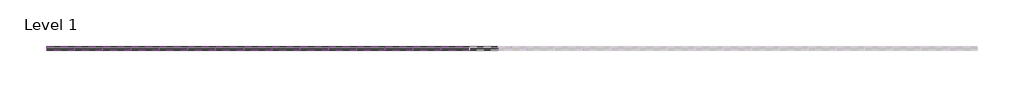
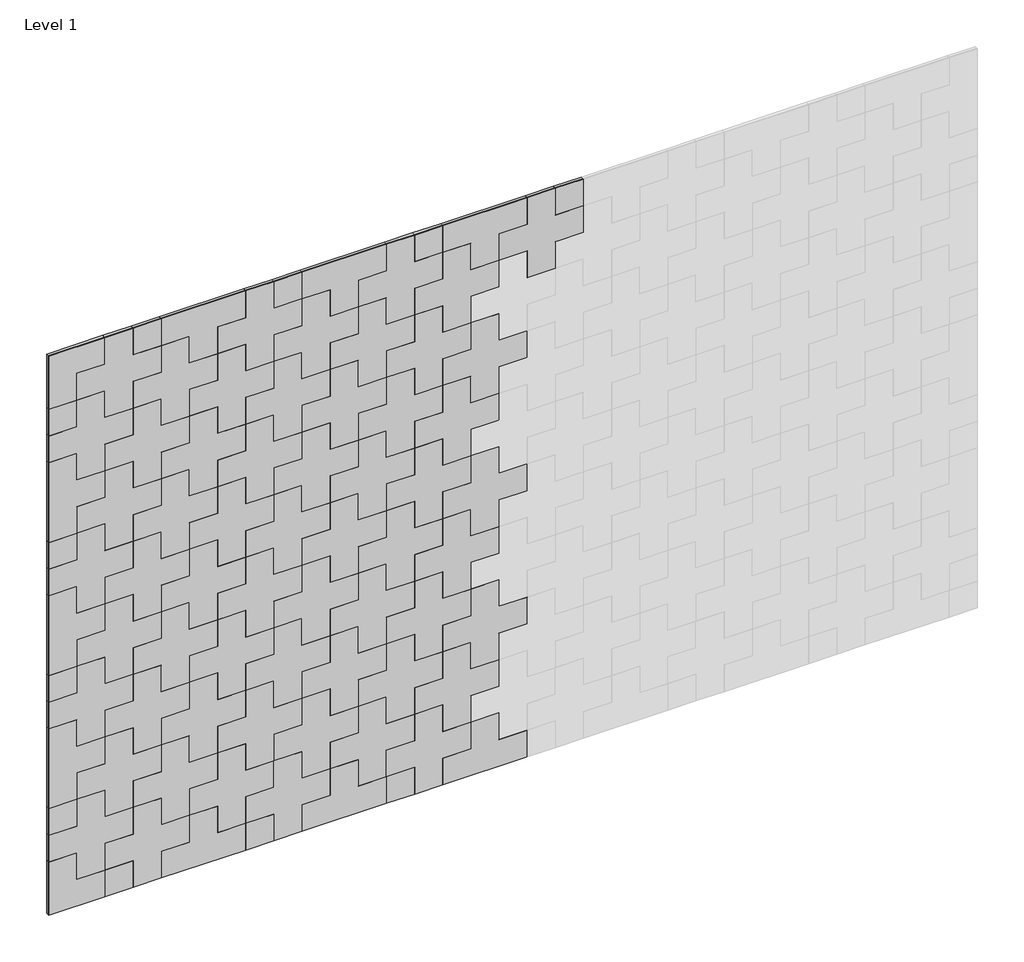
# One storey, part 1 of 2: 80 proxies.
"""IFC4 building model written with IfcOpenShell, lengths in millimetres."""

from ifc_helpers import new_model, si_unit, origin, place, context, project, spatial, transform, mapped, element, save
from components import plus_block_6a39ef65, plus_block_097eb3e5, plus_block_886bbecf, plus_block_dd2fe4e4, plus_block_975a3b46, plus_block_4f07b3c1

model = new_model("IFC4")

# Units and contexts
model_context = context("Model", 3, world=origin())
ifc_project = project(units=[si_unit("LENGTHUNIT", "METRE", prefix="MILLI")], contexts=[model_context])

# Site, building, storey
site = spatial("IfcSite", under=ifc_project)
building = spatial("IfcBuilding", under=site)
storey = spatial("IfcBuildingStorey", under=building, Name="Level 1", Elevation=0.0)

# Proxies
placement = place(None, origin())
plus_block_shape = plus_block_6a39ef65(model_context)
element("IfcBuildingElementProxy", 1, Name="FilzFelt_Plus_Block : Plus Block", ObjectType="FilzFelt_Plus_Block : Plus Block", at=placement, inside=storey, context=model_context, shape_type="MappedRepresentation", body=[
    mapped(plus_block_shape, transform((19537.0189919, -17477.9339335, 1582.5), x_axis=(1.0, 0.0, 0.0), y_axis=(0.0, 0.0, 1.0), z_axis=(0.0, -1.0, 0.0))),
])
element("IfcBuildingElementProxy", 2, Name="FilzFelt_Plus_Block : Plus Block", ObjectType="FilzFelt_Plus_Block : Plus Block", at=placement, inside=storey, context=model_context, shape_type="MappedRepresentation", body=[
    mapped(plus_block_shape, transform((20045.3523252, -17477.9339335, 1582.5), x_axis=(1.0, 0.0, 0.0), y_axis=(0.0, 0.0, 1.0), z_axis=(0.0, -1.0, 0.0))),
])
element("IfcBuildingElementProxy", 3, Name="FilzFelt_Plus_Block : Plus Block", ObjectType="FilzFelt_Plus_Block : Plus Block", at=placement, inside=storey, context=model_context, shape_type="MappedRepresentation", body=[
    mapped(plus_block_shape, transform((20553.6856586, -17477.9339335, 1582.5), x_axis=(1.0, 0.0, 0.0), y_axis=(0.0, 0.0, 1.0), z_axis=(0.0, -1.0, 0.0))),
])
element("IfcBuildingElementProxy", 4, Name="FilzFelt_Plus_Block : Plus Block", ObjectType="FilzFelt_Plus_Block : Plus Block", at=placement, inside=storey, context=model_context, shape_type="MappedRepresentation", body=[
    mapped(plus_block_shape, transform((19740.3523252, -17477.9339335, -44.1666667), x_axis=(1.0, 0.0, 0.0), y_axis=(0.0, 0.0, 1.0), z_axis=(0.0, -1.0, 0.0))),
])
element("IfcBuildingElementProxy", 5, Name="FilzFelt_Plus_Block : Plus Block", ObjectType="FilzFelt_Plus_Block : Plus Block", at=placement, inside=storey, context=model_context, shape_type="MappedRepresentation", body=[
    mapped(plus_block_shape, transform((20248.6856586, -17477.9339335, -44.1666667), x_axis=(1.0, 0.0, 0.0), y_axis=(0.0, 0.0, 1.0), z_axis=(0.0, -1.0, 0.0))),
])
element("IfcBuildingElementProxy", 6, Name="FilzFelt_Plus_Block : Plus Block", ObjectType="FilzFelt_Plus_Block : Plus Block", at=placement, inside=storey, context=model_context, shape_type="MappedRepresentation", body=[
    mapped(plus_block_shape, transform((20757.0189919, -17477.9339335, -44.1666667), x_axis=(1.0, 0.0, 0.0), y_axis=(0.0, 0.0, 1.0), z_axis=(0.0, -1.0, 0.0))),
])
element("IfcBuildingElementProxy", 7, Name="FilzFelt_Plus_Block : Plus Block", ObjectType="FilzFelt_Plus_Block : Plus Block", at=placement, inside=storey, context=model_context, shape_type="MappedRepresentation", body=[
    mapped(plus_block_shape, transform((19842.0189919, -17477.9339335, 1175.8333333), x_axis=(1.0, 0.0, 0.0), y_axis=(0.0, 0.0, 1.0), z_axis=(0.0, -1.0, 0.0))),
])
element("IfcBuildingElementProxy", 8, Name="FilzFelt_Plus_Block : Plus Block", ObjectType="FilzFelt_Plus_Block : Plus Block", at=placement, inside=storey, context=model_context, shape_type="MappedRepresentation", body=[
    mapped(plus_block_shape, transform((20350.3523252, -17477.9339335, 1175.8333333), x_axis=(1.0, 0.0, 0.0), y_axis=(0.0, 0.0, 1.0), z_axis=(0.0, -1.0, 0.0))),
])
element("IfcBuildingElementProxy", 9, Name="FilzFelt_Plus_Block : Plus Block", ObjectType="FilzFelt_Plus_Block : Plus Block", at=placement, inside=storey, context=model_context, shape_type="MappedRepresentation", body=[
    mapped(plus_block_shape, transform((20858.6856586, -17477.9339335, 1175.8333333), x_axis=(1.0, 0.0, 0.0), y_axis=(0.0, 0.0, 1.0), z_axis=(0.0, -1.0, 0.0))),
])
element("IfcBuildingElementProxy", 10, Name="FilzFelt_Plus_Block : Plus Block", ObjectType="FilzFelt_Plus_Block : Plus Block", at=placement, inside=storey, context=model_context, shape_type="MappedRepresentation", body=[
    mapped(plus_block_shape, transform((19638.6856586, -17477.9339335, 769.1666667), x_axis=(1.0, 0.0, 0.0), y_axis=(0.0, 0.0, 1.0), z_axis=(0.0, -1.0, 0.0))),
])
element("IfcBuildingElementProxy", 11, Name="FilzFelt_Plus_Block : Plus Block", ObjectType="FilzFelt_Plus_Block : Plus Block", at=placement, inside=storey, context=model_context, shape_type="MappedRepresentation", body=[
    mapped(plus_block_shape, transform((20147.0189919, -17477.9339335, 769.1666667), x_axis=(1.0, 0.0, 0.0), y_axis=(0.0, 0.0, 1.0), z_axis=(0.0, -1.0, 0.0))),
])
element("IfcBuildingElementProxy", 12, Name="FilzFelt_Plus_Block : Plus Block", ObjectType="FilzFelt_Plus_Block : Plus Block", at=placement, inside=storey, context=model_context, shape_type="MappedRepresentation", body=[
    mapped(plus_block_shape, transform((20655.3523252, -17477.9339335, 769.1666667), x_axis=(1.0, 0.0, 0.0), y_axis=(0.0, 0.0, 1.0), z_axis=(0.0, -1.0, 0.0))),
])
element("IfcBuildingElementProxy", 13, Name="FilzFelt_Plus_Block : Plus Block", ObjectType="FilzFelt_Plus_Block : Plus Block", at=placement, inside=storey, context=model_context, shape_type="MappedRepresentation", body=[
    mapped(plus_block_shape, transform((19943.6856586, -17477.9339335, 362.5), x_axis=(1.0, 0.0, 0.0), y_axis=(0.0, 0.0, 1.0), z_axis=(0.0, -1.0, 0.0))),
])
element("IfcBuildingElementProxy", 14, Name="FilzFelt_Plus_Block : Plus Block", ObjectType="FilzFelt_Plus_Block : Plus Block", at=placement, inside=storey, context=model_context, shape_type="MappedRepresentation", body=[
    mapped(plus_block_shape, transform((20452.0189919, -17477.9339335, 362.5), x_axis=(1.0, 0.0, 0.0), y_axis=(0.0, 0.0, 1.0), z_axis=(0.0, -1.0, 0.0))),
])
element("IfcBuildingElementProxy", 15, Name="FilzFelt_Plus_Block : Plus Block", ObjectType="FilzFelt_Plus_Block : Plus Block", at=placement, inside=storey, context=model_context, shape_type="MappedRepresentation", body=[
    mapped(plus_block_shape, transform((20960.3523252, -17477.9339335, 362.5), x_axis=(1.0, 0.0, 0.0), y_axis=(0.0, 0.0, 1.0), z_axis=(0.0, -1.0, 0.0))),
])
plus_block_2_shape = plus_block_097eb3e5(model_context)
element("IfcBuildingElementProxy", 16, Name="FilzFelt_Plus_Block : Plus Block", ObjectType="FilzFelt_Plus_Block : Plus Block", at=placement, inside=storey, context=model_context, shape_type="MappedRepresentation", body=[
    mapped(plus_block_2_shape, transform((19740.3523252, -17477.9339335, 1989.1666667), x_axis=(1.0, 0.0, 0.0), y_axis=(0.0, 0.0, 1.0), z_axis=(0.0, -1.0, 0.0))),
])
element("IfcBuildingElementProxy", 17, Name="FilzFelt_Plus_Block : Plus Block", ObjectType="FilzFelt_Plus_Block : Plus Block", at=placement, inside=storey, context=model_context, shape_type="MappedRepresentation", body=[
    mapped(plus_block_2_shape, transform((20248.6856586, -17477.9339335, 1989.1666667), x_axis=(1.0, 0.0, 0.0), y_axis=(0.0, 0.0, 1.0), z_axis=(0.0, -1.0, 0.0))),
])
element("IfcBuildingElementProxy", 18, Name="FilzFelt_Plus_Block : Plus Block", ObjectType="FilzFelt_Plus_Block : Plus Block", at=placement, inside=storey, context=model_context, shape_type="MappedRepresentation", body=[
    mapped(plus_block_2_shape, transform((20757.0189919, -17477.9339335, 1989.1666667), x_axis=(1.0, 0.0, 0.0), y_axis=(0.0, 0.0, 1.0), z_axis=(0.0, -1.0, 0.0))),
])
element("IfcBuildingElementProxy", 19, Name="FilzFelt_Plus_Block : Plus Block", ObjectType="FilzFelt_Plus_Block : Plus Block", at=placement, inside=storey, context=model_context, shape_type="MappedRepresentation", body=[
    mapped(plus_block_2_shape, transform((21265.3523252, -17477.9339335, 1989.1666667), x_axis=(1.0, 0.0, 0.0), y_axis=(0.0, 0.0, 1.0), z_axis=(0.0, -1.0, 0.0))),
])
element("IfcBuildingElementProxy", 20, Name="FilzFelt_Plus_Block : Plus Block", ObjectType="FilzFelt_Plus_Block : Plus Block", at=placement, inside=storey, context=model_context, shape_type="MappedRepresentation", body=[
    mapped(plus_block_2_shape, transform((19435.3523252, -17477.9339335, 1277.5), x_axis=(1.0, 0.0, 0.0), y_axis=(0.0, 0.0, 1.0), z_axis=(0.0, -1.0, 0.0))),
])
plus_block_3_shape = plus_block_886bbecf(model_context)
element("IfcBuildingElementProxy", 21, Name="FilzFelt_Plus_Block : Plus Block", ObjectType="FilzFelt_Plus_Block : Plus Block", at=placement, inside=storey, context=model_context, shape_type="MappedRepresentation", body=[
    mapped(plus_block_3_shape, transform((19435.3523252, -17477.9339335, 362.5), x_axis=(1.0, 0.0, 0.0), y_axis=(0.0, 0.0, 1.0), z_axis=(0.0, -1.0, 0.0))),
])
plus_block_4_shape = plus_block_dd2fe4e4(model_context)
element("IfcBuildingElementProxy", 22, Name="FilzFelt_Plus_Block : Plus Block", ObjectType="FilzFelt_Plus_Block : Plus Block", at=placement, inside=storey, context=model_context, shape_type="MappedRepresentation", body=[
    mapped(plus_block_4_shape, transform((19435.3523252, -17477.9339335, 1887.5), x_axis=(1.0, 0.0, 0.0), y_axis=(0.0, 0.0, 1.0), z_axis=(0.0, -1.0, 0.0))),
])
plus_block_5_shape = plus_block_975a3b46(model_context)
element("IfcBuildingElementProxy", 23, Name="FilzFelt_Plus_Block : Plus Block", ObjectType="FilzFelt_Plus_Block : Plus Block", at=placement, inside=storey, context=model_context, shape_type="MappedRepresentation", body=[
    mapped(plus_block_5_shape, transform((19943.6856586, -17477.9339335, 1887.5), x_axis=(1.0, 0.0, 0.0), y_axis=(0.0, 0.0, 1.0), z_axis=(0.0, -1.0, 0.0))),
])
element("IfcBuildingElementProxy", 24, Name="FilzFelt_Plus_Block : Plus Block", ObjectType="FilzFelt_Plus_Block : Plus Block", at=placement, inside=storey, context=model_context, shape_type="MappedRepresentation", body=[
    mapped(plus_block_5_shape, transform((20452.0189919, -17477.9339335, 1887.5), x_axis=(1.0, 0.0, 0.0), y_axis=(0.0, 0.0, 1.0), z_axis=(0.0, -1.0, 0.0))),
])
element("IfcBuildingElementProxy", 25, Name="FilzFelt_Plus_Block : Plus Block", ObjectType="FilzFelt_Plus_Block : Plus Block", at=placement, inside=storey, context=model_context, shape_type="MappedRepresentation", body=[
    mapped(plus_block_5_shape, transform((20960.3523252, -17477.9339335, 1887.5), x_axis=(1.0, 0.0, 0.0), y_axis=(0.0, 0.0, 1.0), z_axis=(0.0, -1.0, 0.0))),
])
element("IfcBuildingElementProxy", 26, Name="FilzFelt_Plus_Block : Plus Block", ObjectType="FilzFelt_Plus_Block : Plus Block", at=placement, inside=storey, context=model_context, shape_type="MappedRepresentation", body=[
    mapped(plus_block_shape, transform((19537.0189919, -17477.9339335, 1074.1666667), x_axis=(1.0, 0.0, 0.0), y_axis=(0.0, 0.0, 1.0), z_axis=(0.0, -1.0, 0.0))),
])
element("IfcBuildingElementProxy", 27, Name="FilzFelt_Plus_Block : Plus Block", ObjectType="FilzFelt_Plus_Block : Plus Block", at=placement, inside=storey, context=model_context, shape_type="MappedRepresentation", body=[
    mapped(plus_block_shape, transform((19740.3523252, -17477.9339335, 1480.8333333), x_axis=(1.0, 0.0, 0.0), y_axis=(0.0, 0.0, 1.0), z_axis=(0.0, -1.0, 0.0))),
])
element("IfcBuildingElementProxy", 28, Name="FilzFelt_Plus_Block : Plus Block", ObjectType="FilzFelt_Plus_Block : Plus Block", at=placement, inside=storey, context=model_context, shape_type="MappedRepresentation", body=[
    mapped(plus_block_shape, transform((20248.6856586, -17477.9339335, 1480.8333333), x_axis=(1.0, 0.0, 0.0), y_axis=(0.0, 0.0, 1.0), z_axis=(0.0, -1.0, 0.0))),
])
element("IfcBuildingElementProxy", 29, Name="FilzFelt_Plus_Block : Plus Block", ObjectType="FilzFelt_Plus_Block : Plus Block", at=placement, inside=storey, context=model_context, shape_type="MappedRepresentation", body=[
    mapped(plus_block_shape, transform((20757.0189919, -17477.9339335, 1480.8333333), x_axis=(1.0, 0.0, 0.0), y_axis=(0.0, 0.0, 1.0), z_axis=(0.0, -1.0, 0.0))),
])
element("IfcBuildingElementProxy", 30, Name="FilzFelt_Plus_Block : Plus Block", ObjectType="FilzFelt_Plus_Block : Plus Block", at=placement, inside=storey, context=model_context, shape_type="MappedRepresentation", body=[
    mapped(plus_block_shape, transform((20045.3523252, -17477.9339335, 1074.1666667), x_axis=(1.0, 0.0, 0.0), y_axis=(0.0, 0.0, 1.0), z_axis=(0.0, -1.0, 0.0))),
])
element("IfcBuildingElementProxy", 31, Name="FilzFelt_Plus_Block : Plus Block", ObjectType="FilzFelt_Plus_Block : Plus Block", at=placement, inside=storey, context=model_context, shape_type="MappedRepresentation", body=[
    mapped(plus_block_shape, transform((20553.6856586, -17477.9339335, 1074.1666667), x_axis=(1.0, 0.0, 0.0), y_axis=(0.0, 0.0, 1.0), z_axis=(0.0, -1.0, 0.0))),
])
element("IfcBuildingElementProxy", 32, Name="FilzFelt_Plus_Block : Plus Block", ObjectType="FilzFelt_Plus_Block : Plus Block", at=placement, inside=storey, context=model_context, shape_type="MappedRepresentation", body=[
    mapped(plus_block_shape, transform((19842.0189919, -17477.9339335, 667.5), x_axis=(1.0, 0.0, 0.0), y_axis=(0.0, 0.0, 1.0), z_axis=(0.0, -1.0, 0.0))),
])
element("IfcBuildingElementProxy", 33, Name="FilzFelt_Plus_Block : Plus Block", ObjectType="FilzFelt_Plus_Block : Plus Block", at=placement, inside=storey, context=model_context, shape_type="MappedRepresentation", body=[
    mapped(plus_block_shape, transform((20350.3523252, -17477.9339335, 667.5), x_axis=(1.0, 0.0, 0.0), y_axis=(0.0, 0.0, 1.0), z_axis=(0.0, -1.0, 0.0))),
])
element("IfcBuildingElementProxy", 34, Name="FilzFelt_Plus_Block : Plus Block", ObjectType="FilzFelt_Plus_Block : Plus Block", at=placement, inside=storey, context=model_context, shape_type="MappedRepresentation", body=[
    mapped(plus_block_shape, transform((20858.6856586, -17477.9339335, 667.5), x_axis=(1.0, 0.0, 0.0), y_axis=(0.0, 0.0, 1.0), z_axis=(0.0, -1.0, 0.0))),
])
element("IfcBuildingElementProxy", 35, Name="FilzFelt_Plus_Block : Plus Block", ObjectType="FilzFelt_Plus_Block : Plus Block", at=placement, inside=storey, context=model_context, shape_type="MappedRepresentation", body=[
    mapped(plus_block_shape, transform((19638.6856586, -17477.9339335, 260.8333333), x_axis=(1.0, 0.0, 0.0), y_axis=(0.0, 0.0, 1.0), z_axis=(0.0, -1.0, 0.0))),
])
element("IfcBuildingElementProxy", 36, Name="FilzFelt_Plus_Block : Plus Block", ObjectType="FilzFelt_Plus_Block : Plus Block", at=placement, inside=storey, context=model_context, shape_type="MappedRepresentation", body=[
    mapped(plus_block_shape, transform((20147.0189919, -17477.9339335, 260.8333333), x_axis=(1.0, 0.0, 0.0), y_axis=(0.0, 0.0, 1.0), z_axis=(0.0, -1.0, 0.0))),
])
element("IfcBuildingElementProxy", 37, Name="FilzFelt_Plus_Block : Plus Block", ObjectType="FilzFelt_Plus_Block : Plus Block", at=placement, inside=storey, context=model_context, shape_type="MappedRepresentation", body=[
    mapped(plus_block_shape, transform((20655.3523252, -17477.9339335, 260.8333333), x_axis=(1.0, 0.0, 0.0), y_axis=(0.0, 0.0, 1.0), z_axis=(0.0, -1.0, 0.0))),
])
plus_block_6_shape = plus_block_4f07b3c1(model_context)
element("IfcBuildingElementProxy", 38, Name="FilzFelt_Plus_Block : Plus Block", ObjectType="FilzFelt_Plus_Block : Plus Block", at=placement, inside=storey, context=model_context, shape_type="MappedRepresentation", body=[
    mapped(plus_block_6_shape, transform((19435.3523252, -17477.9339335, -145.8333333), x_axis=(1.0, 0.0, 0.0), y_axis=(0.0, 0.0, 1.0), z_axis=(0.0, -1.0, 0.0))),
])
element("IfcBuildingElementProxy", 39, Name="FilzFelt_Plus_Block : Plus Block", ObjectType="FilzFelt_Plus_Block : Plus Block", at=placement, inside=storey, context=model_context, shape_type="MappedRepresentation", body=[
    mapped(plus_block_2_shape, transform((19435.3523252, -17477.9339335, 769.1666667), x_axis=(1.0, 0.0, 0.0), y_axis=(0.0, 0.0, 1.0), z_axis=(0.0, -1.0, 0.0))),
])
element("IfcBuildingElementProxy", 40, Name="FilzFelt_Plus_Block : Plus Block", ObjectType="FilzFelt_Plus_Block : Plus Block", at=placement, inside=storey, context=model_context, shape_type="MappedRepresentation", body=[
    mapped(plus_block_3_shape, transform((19943.6856586, -17477.9339335, -145.8333333), x_axis=(0.0, 0.0, 1.0), y_axis=(-1.0, 0.0, 0.0), z_axis=(0.0, -1.0, 0.0))),
])
element("IfcBuildingElementProxy", 41, Name="FilzFelt_Plus_Block : Plus Block", ObjectType="FilzFelt_Plus_Block : Plus Block", at=placement, inside=storey, context=model_context, shape_type="MappedRepresentation", body=[
    mapped(plus_block_3_shape, transform((20452.0189919, -17477.9339335, -145.8333333), x_axis=(0.0, 0.0, 1.0), y_axis=(-1.0, 0.0, 0.0), z_axis=(0.0, -1.0, 0.0))),
])
element("IfcBuildingElementProxy", 42, Name="FilzFelt_Plus_Block : Plus Block", ObjectType="FilzFelt_Plus_Block : Plus Block", at=placement, inside=storey, context=model_context, shape_type="MappedRepresentation", body=[
    mapped(plus_block_3_shape, transform((20960.3523252, -17477.9339335, -145.8333333), x_axis=(0.0, 0.0, 1.0), y_axis=(-1.0, 0.0, 0.0), z_axis=(0.0, -1.0, 0.0))),
])
element("IfcBuildingElementProxy", 43, Name="FilzFelt_Plus_Block : Plus Block", ObjectType="FilzFelt_Plus_Block : Plus Block", at=placement, inside=storey, context=model_context, shape_type="MappedRepresentation", body=[
    mapped(plus_block_shape, transform((19638.6856586, -17477.9339335, 1785.8333333), x_axis=(1.0, 0.0, 0.0), y_axis=(0.0, 0.0, 1.0), z_axis=(0.0, -1.0, 0.0))),
])
element("IfcBuildingElementProxy", 44, Name="FilzFelt_Plus_Block : Plus Block", ObjectType="FilzFelt_Plus_Block : Plus Block", at=placement, inside=storey, context=model_context, shape_type="MappedRepresentation", body=[
    mapped(plus_block_shape, transform((20147.0189919, -17477.9339335, 1785.8333333), x_axis=(1.0, 0.0, 0.0), y_axis=(0.0, 0.0, 1.0), z_axis=(0.0, -1.0, 0.0))),
])
element("IfcBuildingElementProxy", 45, Name="FilzFelt_Plus_Block : Plus Block", ObjectType="FilzFelt_Plus_Block : Plus Block", at=placement, inside=storey, context=model_context, shape_type="MappedRepresentation", body=[
    mapped(plus_block_shape, transform((20655.3523252, -17477.9339335, 1785.8333333), x_axis=(1.0, 0.0, 0.0), y_axis=(0.0, 0.0, 1.0), z_axis=(0.0, -1.0, 0.0))),
])
element("IfcBuildingElementProxy", 46, Name="FilzFelt_Plus_Block : Plus Block", ObjectType="FilzFelt_Plus_Block : Plus Block", at=placement, inside=storey, context=model_context, shape_type="MappedRepresentation", body=[
    mapped(plus_block_shape, transform((21163.6856586, -17477.9339335, 1785.8333333), x_axis=(1.0, 0.0, 0.0), y_axis=(0.0, 0.0, 1.0), z_axis=(0.0, -1.0, 0.0))),
])
element("IfcBuildingElementProxy", 47, Name="FilzFelt_Plus_Block : Plus Block", ObjectType="FilzFelt_Plus_Block : Plus Block", at=placement, inside=storey, context=model_context, shape_type="MappedRepresentation", body=[
    mapped(plus_block_shape, transform((19537.0189919, -17477.9339335, 565.8333333), x_axis=(1.0, 0.0, 0.0), y_axis=(0.0, 0.0, 1.0), z_axis=(0.0, -1.0, 0.0))),
])
element("IfcBuildingElementProxy", 48, Name="FilzFelt_Plus_Block : Plus Block", ObjectType="FilzFelt_Plus_Block : Plus Block", at=placement, inside=storey, context=model_context, shape_type="MappedRepresentation", body=[
    mapped(plus_block_shape, transform((19943.6856586, -17477.9339335, 1379.1666667), x_axis=(1.0, 0.0, 0.0), y_axis=(0.0, 0.0, 1.0), z_axis=(0.0, -1.0, 0.0))),
])
element("IfcBuildingElementProxy", 49, Name="FilzFelt_Plus_Block : Plus Block", ObjectType="FilzFelt_Plus_Block : Plus Block", at=placement, inside=storey, context=model_context, shape_type="MappedRepresentation", body=[
    mapped(plus_block_shape, transform((20452.0189919, -17477.9339335, 1379.1666667), x_axis=(1.0, 0.0, 0.0), y_axis=(0.0, 0.0, 1.0), z_axis=(0.0, -1.0, 0.0))),
])
element("IfcBuildingElementProxy", 50, Name="FilzFelt_Plus_Block : Plus Block", ObjectType="FilzFelt_Plus_Block : Plus Block", at=placement, inside=storey, context=model_context, shape_type="MappedRepresentation", body=[
    mapped(plus_block_shape, transform((20960.3523252, -17477.9339335, 1379.1666667), x_axis=(1.0, 0.0, 0.0), y_axis=(0.0, 0.0, 1.0), z_axis=(0.0, -1.0, 0.0))),
])
element("IfcBuildingElementProxy", 51, Name="FilzFelt_Plus_Block : Plus Block", ObjectType="FilzFelt_Plus_Block : Plus Block", at=placement, inside=storey, context=model_context, shape_type="MappedRepresentation", body=[
    mapped(plus_block_shape, transform((19740.3523252, -17477.9339335, 972.5), x_axis=(1.0, 0.0, 0.0), y_axis=(0.0, 0.0, 1.0), z_axis=(0.0, -1.0, 0.0))),
])
element("IfcBuildingElementProxy", 52, Name="FilzFelt_Plus_Block : Plus Block", ObjectType="FilzFelt_Plus_Block : Plus Block", at=placement, inside=storey, context=model_context, shape_type="MappedRepresentation", body=[
    mapped(plus_block_shape, transform((20248.6856586, -17477.9339335, 972.5), x_axis=(1.0, 0.0, 0.0), y_axis=(0.0, 0.0, 1.0), z_axis=(0.0, -1.0, 0.0))),
])
element("IfcBuildingElementProxy", 53, Name="FilzFelt_Plus_Block : Plus Block", ObjectType="FilzFelt_Plus_Block : Plus Block", at=placement, inside=storey, context=model_context, shape_type="MappedRepresentation", body=[
    mapped(plus_block_shape, transform((20757.0189919, -17477.9339335, 972.5), x_axis=(1.0, 0.0, 0.0), y_axis=(0.0, 0.0, 1.0), z_axis=(0.0, -1.0, 0.0))),
])
element("IfcBuildingElementProxy", 54, Name="FilzFelt_Plus_Block : Plus Block", ObjectType="FilzFelt_Plus_Block : Plus Block", at=placement, inside=storey, context=model_context, shape_type="MappedRepresentation", body=[
    mapped(plus_block_shape, transform((20045.3523252, -17477.9339335, 565.8333333), x_axis=(1.0, 0.0, 0.0), y_axis=(0.0, 0.0, 1.0), z_axis=(0.0, -1.0, 0.0))),
])
element("IfcBuildingElementProxy", 55, Name="FilzFelt_Plus_Block : Plus Block", ObjectType="FilzFelt_Plus_Block : Plus Block", at=placement, inside=storey, context=model_context, shape_type="MappedRepresentation", body=[
    mapped(plus_block_shape, transform((20553.6856586, -17477.9339335, 565.8333333), x_axis=(1.0, 0.0, 0.0), y_axis=(0.0, 0.0, 1.0), z_axis=(0.0, -1.0, 0.0))),
])
element("IfcBuildingElementProxy", 56, Name="FilzFelt_Plus_Block : Plus Block", ObjectType="FilzFelt_Plus_Block : Plus Block", at=placement, inside=storey, context=model_context, shape_type="MappedRepresentation", body=[
    mapped(plus_block_shape, transform((19842.0189919, -17477.9339335, 159.1666667), x_axis=(1.0, 0.0, 0.0), y_axis=(0.0, 0.0, 1.0), z_axis=(0.0, -1.0, 0.0))),
])
element("IfcBuildingElementProxy", 57, Name="FilzFelt_Plus_Block : Plus Block", ObjectType="FilzFelt_Plus_Block : Plus Block", at=placement, inside=storey, context=model_context, shape_type="MappedRepresentation", body=[
    mapped(plus_block_shape, transform((20350.3523252, -17477.9339335, 159.1666667), x_axis=(1.0, 0.0, 0.0), y_axis=(0.0, 0.0, 1.0), z_axis=(0.0, -1.0, 0.0))),
])
element("IfcBuildingElementProxy", 58, Name="FilzFelt_Plus_Block : Plus Block", ObjectType="FilzFelt_Plus_Block : Plus Block", at=placement, inside=storey, context=model_context, shape_type="MappedRepresentation", body=[
    mapped(plus_block_shape, transform((20858.6856586, -17477.9339335, 159.1666667), x_axis=(1.0, 0.0, 0.0), y_axis=(0.0, 0.0, 1.0), z_axis=(0.0, -1.0, 0.0))),
])
element("IfcBuildingElementProxy", 59, Name="FilzFelt_Plus_Block : Plus Block", ObjectType="FilzFelt_Plus_Block : Plus Block", at=placement, inside=storey, context=model_context, shape_type="MappedRepresentation", body=[
    mapped(plus_block_shape, transform((19842.0189919, -17477.9339335, 1684.1666667), x_axis=(1.0, 0.0, 0.0), y_axis=(0.0, 0.0, 1.0), z_axis=(0.0, -1.0, 0.0))),
])
element("IfcBuildingElementProxy", 60, Name="FilzFelt_Plus_Block : Plus Block", ObjectType="FilzFelt_Plus_Block : Plus Block", at=placement, inside=storey, context=model_context, shape_type="MappedRepresentation", body=[
    mapped(plus_block_shape, transform((20350.3523252, -17477.9339335, 1684.1666667), x_axis=(1.0, 0.0, 0.0), y_axis=(0.0, 0.0, 1.0), z_axis=(0.0, -1.0, 0.0))),
])
element("IfcBuildingElementProxy", 61, Name="FilzFelt_Plus_Block : Plus Block", ObjectType="FilzFelt_Plus_Block : Plus Block", at=placement, inside=storey, context=model_context, shape_type="MappedRepresentation", body=[
    mapped(plus_block_shape, transform((20858.6856586, -17477.9339335, 1684.1666667), x_axis=(1.0, 0.0, 0.0), y_axis=(0.0, 0.0, 1.0), z_axis=(0.0, -1.0, 0.0))),
])
element("IfcBuildingElementProxy", 62, Name="FilzFelt_Plus_Block : Plus Block", ObjectType="FilzFelt_Plus_Block : Plus Block", at=placement, inside=storey, context=model_context, shape_type="MappedRepresentation", body=[
    mapped(plus_block_shape, transform((19537.0189919, -17477.9339335, 57.5), x_axis=(1.0, 0.0, 0.0), y_axis=(0.0, 0.0, 1.0), z_axis=(0.0, -1.0, 0.0))),
])
element("IfcBuildingElementProxy", 63, Name="FilzFelt_Plus_Block : Plus Block", ObjectType="FilzFelt_Plus_Block : Plus Block", at=placement, inside=storey, context=model_context, shape_type="MappedRepresentation", body=[
    mapped(plus_block_shape, transform((19638.6856586, -17477.9339335, 1277.5), x_axis=(1.0, 0.0, 0.0), y_axis=(0.0, 0.0, 1.0), z_axis=(0.0, -1.0, 0.0))),
])
element("IfcBuildingElementProxy", 64, Name="FilzFelt_Plus_Block : Plus Block", ObjectType="FilzFelt_Plus_Block : Plus Block", at=placement, inside=storey, context=model_context, shape_type="MappedRepresentation", body=[
    mapped(plus_block_shape, transform((20147.0189919, -17477.9339335, 1277.5), x_axis=(1.0, 0.0, 0.0), y_axis=(0.0, 0.0, 1.0), z_axis=(0.0, -1.0, 0.0))),
])
element("IfcBuildingElementProxy", 65, Name="FilzFelt_Plus_Block : Plus Block", ObjectType="FilzFelt_Plus_Block : Plus Block", at=placement, inside=storey, context=model_context, shape_type="MappedRepresentation", body=[
    mapped(plus_block_shape, transform((20655.3523252, -17477.9339335, 1277.5), x_axis=(1.0, 0.0, 0.0), y_axis=(0.0, 0.0, 1.0), z_axis=(0.0, -1.0, 0.0))),
])
element("IfcBuildingElementProxy", 66, Name="FilzFelt_Plus_Block : Plus Block", ObjectType="FilzFelt_Plus_Block : Plus Block", at=placement, inside=storey, context=model_context, shape_type="MappedRepresentation", body=[
    mapped(plus_block_shape, transform((19943.6856586, -17477.9339335, 870.8333333), x_axis=(1.0, 0.0, 0.0), y_axis=(0.0, 0.0, 1.0), z_axis=(0.0, -1.0, 0.0))),
])
element("IfcBuildingElementProxy", 67, Name="FilzFelt_Plus_Block : Plus Block", ObjectType="FilzFelt_Plus_Block : Plus Block", at=placement, inside=storey, context=model_context, shape_type="MappedRepresentation", body=[
    mapped(plus_block_shape, transform((20452.0189919, -17477.9339335, 870.8333333), x_axis=(1.0, 0.0, 0.0), y_axis=(0.0, 0.0, 1.0), z_axis=(0.0, -1.0, 0.0))),
])
element("IfcBuildingElementProxy", 68, Name="FilzFelt_Plus_Block : Plus Block", ObjectType="FilzFelt_Plus_Block : Plus Block", at=placement, inside=storey, context=model_context, shape_type="MappedRepresentation", body=[
    mapped(plus_block_shape, transform((20960.3523252, -17477.9339335, 870.8333333), x_axis=(1.0, 0.0, 0.0), y_axis=(0.0, 0.0, 1.0), z_axis=(0.0, -1.0, 0.0))),
])
element("IfcBuildingElementProxy", 69, Name="FilzFelt_Plus_Block : Plus Block", ObjectType="FilzFelt_Plus_Block : Plus Block", at=placement, inside=storey, context=model_context, shape_type="MappedRepresentation", body=[
    mapped(plus_block_shape, transform((19740.3523252, -17477.9339335, 464.1666667), x_axis=(1.0, 0.0, 0.0), y_axis=(0.0, 0.0, 1.0), z_axis=(0.0, -1.0, 0.0))),
])
element("IfcBuildingElementProxy", 70, Name="FilzFelt_Plus_Block : Plus Block", ObjectType="FilzFelt_Plus_Block : Plus Block", at=placement, inside=storey, context=model_context, shape_type="MappedRepresentation", body=[
    mapped(plus_block_shape, transform((20248.6856586, -17477.9339335, 464.1666667), x_axis=(1.0, 0.0, 0.0), y_axis=(0.0, 0.0, 1.0), z_axis=(0.0, -1.0, 0.0))),
])
element("IfcBuildingElementProxy", 71, Name="FilzFelt_Plus_Block : Plus Block", ObjectType="FilzFelt_Plus_Block : Plus Block", at=placement, inside=storey, context=model_context, shape_type="MappedRepresentation", body=[
    mapped(plus_block_shape, transform((20757.0189919, -17477.9339335, 464.1666667), x_axis=(1.0, 0.0, 0.0), y_axis=(0.0, 0.0, 1.0), z_axis=(0.0, -1.0, 0.0))),
])
element("IfcBuildingElementProxy", 72, Name="FilzFelt_Plus_Block : Plus Block", ObjectType="FilzFelt_Plus_Block : Plus Block", at=placement, inside=storey, context=model_context, shape_type="MappedRepresentation", body=[
    mapped(plus_block_shape, transform((20045.3523252, -17477.9339335, 57.5), x_axis=(1.0, 0.0, 0.0), y_axis=(0.0, 0.0, 1.0), z_axis=(0.0, -1.0, 0.0))),
])
element("IfcBuildingElementProxy", 73, Name="FilzFelt_Plus_Block : Plus Block", ObjectType="FilzFelt_Plus_Block : Plus Block", at=placement, inside=storey, context=model_context, shape_type="MappedRepresentation", body=[
    mapped(plus_block_shape, transform((20553.6856586, -17477.9339335, 57.5), x_axis=(1.0, 0.0, 0.0), y_axis=(0.0, 0.0, 1.0), z_axis=(0.0, -1.0, 0.0))),
])
element("IfcBuildingElementProxy", 74, Name="FilzFelt_Plus_Block : Plus Block", ObjectType="FilzFelt_Plus_Block : Plus Block", at=placement, inside=storey, context=model_context, shape_type="MappedRepresentation", body=[
    mapped(plus_block_3_shape, transform((19435.3523252, -17477.9339335, 870.8333333), x_axis=(1.0, 0.0, 0.0), y_axis=(0.0, 0.0, 1.0), z_axis=(0.0, -1.0, 0.0))),
])
element("IfcBuildingElementProxy", 75, Name="FilzFelt_Plus_Block : Plus Block", ObjectType="FilzFelt_Plus_Block : Plus Block", at=placement, inside=storey, context=model_context, shape_type="MappedRepresentation", body=[
    mapped(plus_block_3_shape, transform((19435.3523252, -17477.9339335, 1379.1666667), x_axis=(1.0, 0.0, 0.0), y_axis=(0.0, 0.0, 1.0), z_axis=(0.0, -1.0, 0.0))),
])
element("IfcBuildingElementProxy", 76, Name="FilzFelt_Plus_Block : Plus Block", ObjectType="FilzFelt_Plus_Block : Plus Block", at=placement, inside=storey, context=model_context, shape_type="MappedRepresentation", body=[
    mapped(plus_block_2_shape, transform((19435.3523252, -17477.9339335, 1785.8333333), x_axis=(1.0, 0.0, 0.0), y_axis=(0.0, 0.0, 1.0), z_axis=(0.0, -1.0, 0.0))),
])
element("IfcBuildingElementProxy", 77, Name="FilzFelt_Plus_Block : Plus Block", ObjectType="FilzFelt_Plus_Block : Plus Block", at=placement, inside=storey, context=model_context, shape_type="MappedRepresentation", body=[
    mapped(plus_block_2_shape, transform((19435.3523252, -17477.9339335, 260.8333333), x_axis=(1.0, 0.0, 0.0), y_axis=(0.0, 0.0, 1.0), z_axis=(0.0, -1.0, 0.0))),
])
element("IfcBuildingElementProxy", 78, Name="FilzFelt_Plus_Block : Plus Block", ObjectType="FilzFelt_Plus_Block : Plus Block", at=placement, inside=storey, context=model_context, shape_type="MappedRepresentation", body=[
    mapped(plus_block_2_shape, transform((19638.6856586, -17477.9339335, -44.1666667), x_axis=(1.0, 0.0, 0.0), y_axis=(0.0, 0.0, 1.0), z_axis=(0.0, -1.0, 0.0))),
])
element("IfcBuildingElementProxy", 79, Name="FilzFelt_Plus_Block : Plus Block", ObjectType="FilzFelt_Plus_Block : Plus Block", at=placement, inside=storey, context=model_context, shape_type="MappedRepresentation", body=[
    mapped(plus_block_2_shape, transform((20147.0189919, -17477.9339335, -44.1666667), x_axis=(1.0, 0.0, 0.0), y_axis=(0.0, 0.0, 1.0), z_axis=(0.0, -1.0, 0.0))),
])
element("IfcBuildingElementProxy", 80, Name="FilzFelt_Plus_Block : Plus Block", ObjectType="FilzFelt_Plus_Block : Plus Block", at=placement, inside=storey, context=model_context, shape_type="MappedRepresentation", body=[
    mapped(plus_block_2_shape, transform((20655.3523252, -17477.9339335, -44.1666667), x_axis=(1.0, 0.0, 0.0), y_axis=(0.0, 0.0, 1.0), z_axis=(0.0, -1.0, 0.0))),
])

save(model, "model.ifc")
